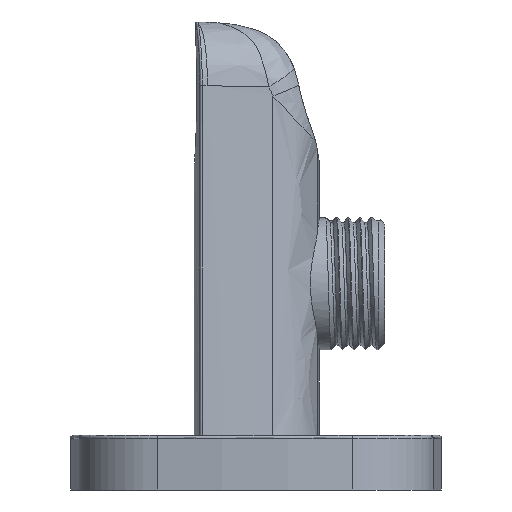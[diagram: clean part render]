
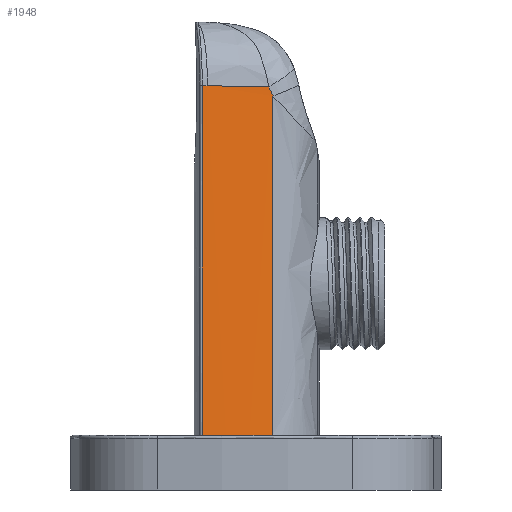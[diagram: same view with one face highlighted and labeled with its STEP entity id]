
A CAD part, left-side view. The second image highlights one B-rep face of the part: STEP entity #1948.
In plain terms, the highlighted free-form (B-spline) face has degree [3, 1] with [8, 2] control points.
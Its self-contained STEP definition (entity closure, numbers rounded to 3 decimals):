
#107=LINE('',#3333,#186);
#186=VECTOR('',#2184,10.);
#266=FACE_OUTER_BOUND('',#399,.T.);
#399=EDGE_LOOP('',(#1314,#1315,#1316,#1317,#1318,#1319));
#528=CIRCLE('',#2092,103.37);
#602=B_SPLINE_CURVE_WITH_KNOTS('',3,(#3334,#3335,#3336,#3337,#3338,#3339,
#3340,#3341,#3342,#3343,#3344,#3345,#3346,#3347,#3348,#3349,#3350,#3351,
#3352,#3353,#3354,#3355),.UNSPECIFIED.,.F.,.F.,(4,3,3,3,3,3,3,4),(0.,
0.195,0.376,0.415,0.595,0.772,
0.945,1.),.UNSPECIFIED.);
#603=B_SPLINE_CURVE_WITH_KNOTS('',3,(#3364,#3365,#3366,#3367,#3368,#3369,
#3370,#3371,#3372,#3373,#3374,#3375,#3376,#3377,#3378,#3379),
 .UNSPECIFIED.,.F.,.F.,(4,3,3,3,3,4),(0.,0.369,0.449,
0.571,0.694,0.949),.UNSPECIFIED.);
#748=(
BOUNDED_CURVE()
B_SPLINE_CURVE(3,(#2786,#2787,#2788,#2789,#2790,#2791,#2792),
 .UNSPECIFIED.,.F.,.F.)
B_SPLINE_CURVE_WITH_KNOTS((4,3,4),(0.064,1.,1.019),
 .UNSPECIFIED.)
CURVE()
GEOMETRIC_REPRESENTATION_ITEM()
RATIONAL_B_SPLINE_CURVE((1.,0.999,0.999,
1.,1.,1.,1.))
REPRESENTATION_ITEM('')
);
#749=(
BOUNDED_CURVE()
B_SPLINE_CURVE(3,(#3357,#3358,#3359,#3360,#3361,#3362),.UNSPECIFIED.,.F.,
 .F.)
B_SPLINE_CURVE_WITH_KNOTS((4,2,4),(1.019,1.086,1.095),
 .UNSPECIFIED.)
CURVE()
GEOMETRIC_REPRESENTATION_ITEM()
RATIONAL_B_SPLINE_CURVE((1.,1.,1.,1.,1.,1.))
REPRESENTATION_ITEM('')
);
#763=VERTEX_POINT('',#2779);
#765=VERTEX_POINT('',#2785);
#806=VERTEX_POINT('',#3331);
#807=VERTEX_POINT('',#3332);
#808=VERTEX_POINT('',#3356);
#809=VERTEX_POINT('',#3363);
#957=EDGE_CURVE('',#765,#763,#748,.T.);
#999=EDGE_CURVE('',#806,#807,#107,.T.);
#1000=EDGE_CURVE('',#807,#765,#602,.T.);
#1001=EDGE_CURVE('',#763,#808,#749,.T.);
#1002=EDGE_CURVE('',#808,#809,#603,.T.);
#1003=EDGE_CURVE('',#806,#809,#528,.T.);
#1314=ORIENTED_EDGE('',*,*,#999,.T.);
#1315=ORIENTED_EDGE('',*,*,#1000,.T.);
#1316=ORIENTED_EDGE('',*,*,#957,.T.);
#1317=ORIENTED_EDGE('',*,*,#1001,.T.);
#1318=ORIENTED_EDGE('',*,*,#1002,.T.);
#1319=ORIENTED_EDGE('',*,*,#1003,.F.);
#1898=(
BOUNDED_SURFACE()
B_SPLINE_SURFACE(3,1,((#3315,#3316),(#3317,#3318),(#3319,#3320),(#3321,
#3322),(#3323,#3324),(#3325,#3326),(#3327,#3328),(#3329,#3330)),
 .UNSPECIFIED.,.F.,.F.,.F.)
B_SPLINE_SURFACE_WITH_KNOTS((4,1,3,4),(2,2),(0.,0.5,1.,1.279),
(0.,7.364),.UNSPECIFIED.)
GEOMETRIC_REPRESENTATION_ITEM()
RATIONAL_B_SPLINE_SURFACE(((1.,1.),(1.,1.),(1.,1.),(1.,1.),(1.,1.),(1.,
1.),(1.,1.),(1.,1.)))
REPRESENTATION_ITEM('')
SURFACE()
);
#1948=ADVANCED_FACE('',(#266),#1898,.T.);
#2092=AXIS2_PLACEMENT_3D('',#3380,#2185,#2186);
#2184=DIRECTION('',(0.,0.,1.));
#2185=DIRECTION('center_axis',(0.,0.,
-1.));
#2186=DIRECTION('ref_axis',(-0.981,-0.192,0.));
#2779=CARTESIAN_POINT('',(-38.54,7.592,54.762));
#2785=CARTESIAN_POINT('',(-36.084,-2.053,54.579));
#2786=CARTESIAN_POINT('Ctrl Pts',(-36.084,-2.053,54.579));
#2787=CARTESIAN_POINT('Ctrl Pts',(-37.038,1.058,54.638));
#2788=CARTESIAN_POINT('Ctrl Pts',(-37.845,4.211,54.706));
#2789=CARTESIAN_POINT('Ctrl Pts',(-38.501,7.398,54.759));
#2790=CARTESIAN_POINT('Ctrl Pts',(-38.514,7.463,54.76));
#2791=CARTESIAN_POINT('Ctrl Pts',(-38.527,7.528,54.761));
#2792=CARTESIAN_POINT('Ctrl Pts',(-38.54,7.592,54.762));
#3315=CARTESIAN_POINT('Ctrl Pts',(-35.886,-2.691,58.396));
#3316=CARTESIAN_POINT('Ctrl Pts',(-35.886,-2.691,-15.247));
#3317=CARTESIAN_POINT('Ctrl Pts',(-36.417,-0.999,
58.396));
#3318=CARTESIAN_POINT('Ctrl Pts',(-36.417,-0.999,
-15.247));
#3319=CARTESIAN_POINT('Ctrl Pts',(-37.392,2.413,58.396));
#3320=CARTESIAN_POINT('Ctrl Pts',(-37.392,2.413,-15.247));
#3321=CARTESIAN_POINT('Ctrl Pts',(-38.189,5.87,58.396));
#3322=CARTESIAN_POINT('Ctrl Pts',(-38.189,5.87,-15.247));
#3323=CARTESIAN_POINT('Ctrl Pts',(-38.544,7.608,58.396));
#3324=CARTESIAN_POINT('Ctrl Pts',(-38.544,7.608,-15.247));
#3325=CARTESIAN_POINT('Ctrl Pts',(-38.742,8.579,58.396));
#3326=CARTESIAN_POINT('Ctrl Pts',(-38.742,8.579,-15.247));
#3327=CARTESIAN_POINT('Ctrl Pts',(-38.925,9.553,58.396));
#3328=CARTESIAN_POINT('Ctrl Pts',(-38.925,9.553,-15.247));
#3329=CARTESIAN_POINT('Ctrl Pts',(-39.095,10.53,58.396));
#3330=CARTESIAN_POINT('Ctrl Pts',(-39.095,10.53,-15.247));
#3331=CARTESIAN_POINT('',(-35.886,-2.691,0.));
#3332=CARTESIAN_POINT('',(-35.886,-2.691,53.145));
#3333=CARTESIAN_POINT('',(-35.886,-2.691,0.));
#3334=CARTESIAN_POINT('Ctrl Pts',(-35.886,-2.691,53.145));
#3335=CARTESIAN_POINT('Ctrl Pts',(-35.897,-2.657,53.241));
#3336=CARTESIAN_POINT('Ctrl Pts',(-35.908,-2.622,53.337));
#3337=CARTESIAN_POINT('Ctrl Pts',(-35.919,-2.585,53.433));
#3338=CARTESIAN_POINT('Ctrl Pts',(-35.93,-2.552,53.522));
#3339=CARTESIAN_POINT('Ctrl Pts',(-35.941,-2.517,53.61));
#3340=CARTESIAN_POINT('Ctrl Pts',(-35.952,-2.481,53.698));
#3341=CARTESIAN_POINT('Ctrl Pts',(-35.954,-2.473,53.717));
#3342=CARTESIAN_POINT('Ctrl Pts',(-35.957,-2.466,53.735));
#3343=CARTESIAN_POINT('Ctrl Pts',(-35.959,-2.458,53.754));
#3344=CARTESIAN_POINT('Ctrl Pts',(-35.97,-2.421,53.842));
#3345=CARTESIAN_POINT('Ctrl Pts',(-35.982,-2.384,53.929));
#3346=CARTESIAN_POINT('Ctrl Pts',(-35.994,-2.344,54.015));
#3347=CARTESIAN_POINT('Ctrl Pts',(-36.006,-2.306,54.099));
#3348=CARTESIAN_POINT('Ctrl Pts',(-36.019,-2.265,54.183));
#3349=CARTESIAN_POINT('Ctrl Pts',(-36.032,-2.224,54.265));
#3350=CARTESIAN_POINT('Ctrl Pts',(-36.044,-2.183,54.346));
#3351=CARTESIAN_POINT('Ctrl Pts',(-36.057,-2.14,54.425));
#3352=CARTESIAN_POINT('Ctrl Pts',(-36.071,-2.096,54.504));
#3353=CARTESIAN_POINT('Ctrl Pts',(-36.075,-2.082,54.529));
#3354=CARTESIAN_POINT('Ctrl Pts',(-36.08,-2.068,54.554));
#3355=CARTESIAN_POINT('Ctrl Pts',(-36.084,-2.053,54.579));
#3356=CARTESIAN_POINT('',(-38.699,8.368,54.778));
#3357=CARTESIAN_POINT('Ctrl Pts',(-38.54,7.592,54.762));
#3358=CARTESIAN_POINT('Ctrl Pts',(-38.587,7.822,54.766));
#3359=CARTESIAN_POINT('Ctrl Pts',(-38.634,8.052,54.77));
#3360=CARTESIAN_POINT('Ctrl Pts',(-38.686,8.311,54.777));
#3361=CARTESIAN_POINT('Ctrl Pts',(-38.691,8.34,54.777));
#3362=CARTESIAN_POINT('Ctrl Pts',(-38.697,8.369,54.778));
#3363=CARTESIAN_POINT('',(-38.696,8.371,0.));
#3364=CARTESIAN_POINT('Ctrl Pts',(-38.699,8.368,54.778));
#3365=CARTESIAN_POINT('Ctrl Pts',(-38.697,8.37,47.676));
#3366=CARTESIAN_POINT('Ctrl Pts',(-38.696,8.371,40.573));
#3367=CARTESIAN_POINT('Ctrl Pts',(-38.696,8.371,33.471));
#3368=CARTESIAN_POINT('Ctrl Pts',(-38.696,8.371,31.93));
#3369=CARTESIAN_POINT('Ctrl Pts',(-38.696,8.371,30.389));
#3370=CARTESIAN_POINT('Ctrl Pts',(-38.696,8.371,28.848));
#3371=CARTESIAN_POINT('Ctrl Pts',(-38.696,8.371,26.491));
#3372=CARTESIAN_POINT('Ctrl Pts',(-38.696,8.371,24.134));
#3373=CARTESIAN_POINT('Ctrl Pts',(-38.696,8.371,21.777));
#3374=CARTESIAN_POINT('Ctrl Pts',(-38.696,8.371,19.419));
#3375=CARTESIAN_POINT('Ctrl Pts',(-38.696,8.371,17.062));
#3376=CARTESIAN_POINT('Ctrl Pts',(-38.696,8.371,14.705));
#3377=CARTESIAN_POINT('Ctrl Pts',(-38.696,8.371,9.803));
#3378=CARTESIAN_POINT('Ctrl Pts',(-38.696,8.371,4.902));
#3379=CARTESIAN_POINT('Ctrl Pts',(-38.696,8.371,0.));
#3380=CARTESIAN_POINT('Origin',(62.745,28.251,0.));
